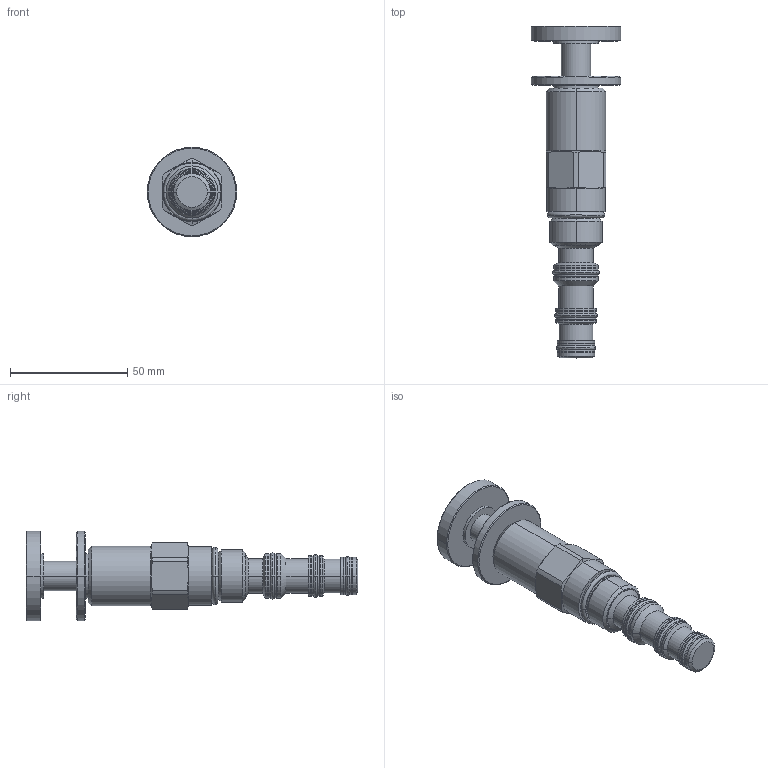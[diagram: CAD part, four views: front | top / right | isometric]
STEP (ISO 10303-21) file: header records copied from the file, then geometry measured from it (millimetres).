
FILE_DESCRIPTION((''),'2;1');
FILE_NAME('5424300_SW0005','2009-02-04T',('jcs'),(''),'PRO/ENGINEER BY PARAMETRIC TECHNOLOGY CORPORATION, 2008010','PRO/ENGINEER BY PARAMETRIC TECHNOLOGY CORPORATION, 2008010','');
FILE_SCHEMA(('CONFIG_CONTROL_DESIGN'));
Length unit declared in the file: inch
Products named in the file (1): 5424300_SW0005
Bounding box: 38.1 x 141.46 x 38.1 mm (x, y, z)
Volume: 56051.7 mm3; surface area: 18040.3 mm2
Topology: 5 solids, 5 shells, 263 faces, 556 edges, 325 vertices
Faces by surface type: cylinder 88, plane 51, torus 46, cone 46, revolution 32
Entity records: 7748 total; most frequent: CARTESIAN_POINT 1928, DIRECTION 1320, ORIENTED_EDGE 1108, AXIS2_PLACEMENT_3D 565, EDGE_CURVE 554, CIRCLE 334, VERTEX_POINT 325, EDGE_LOOP 295
